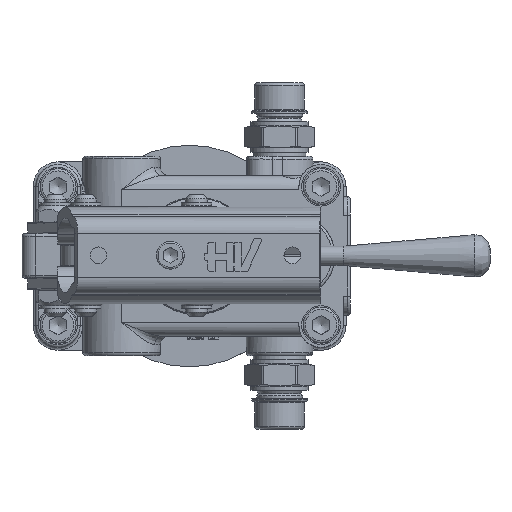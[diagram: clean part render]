
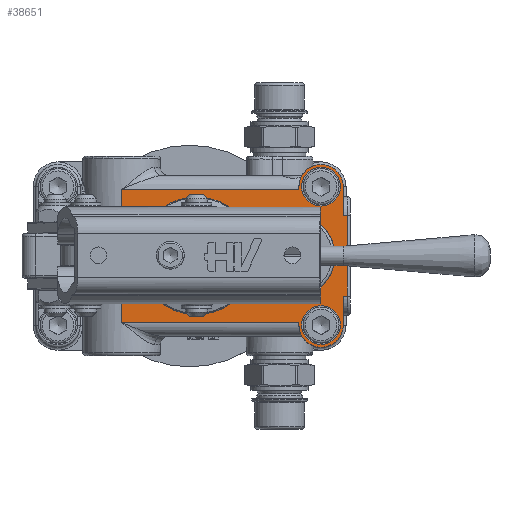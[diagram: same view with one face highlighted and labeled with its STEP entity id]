
A CAD part, top view. The second image highlights one B-rep face of the part: STEP entity #38651.
In plain terms, the highlighted planar face has unit normal (0, 0, 1).
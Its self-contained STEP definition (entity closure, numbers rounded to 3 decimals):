
#18081=CARTESIAN_POINT('',(77.978,33.055,43.0));
#18082=VERTEX_POINT('',#18081);
#18083=CARTESIAN_POINT('',(59.,34.,43.0));
#18084=DIRECTION('',(0.,0.,-1.0));
#18085=DIRECTION('',(-0.999,0.05,0.));
#18086=AXIS2_PLACEMENT_3D('',#18083,#18084,#18085);
#18087=CIRCLE('',#18086,19.002);
#18088=EDGE_CURVE('',#18082,#18082,#18087,.T.);
#36994=CARTESIAN_POINT('',(96.,58.,43.));
#36995=VERTEX_POINT('',#36994);
#37003=CARTESIAN_POINT('',(96.,59.,43.));
#37004=VERTEX_POINT('',#37003);
#37005=CARTESIAN_POINT('',(96.,58.,43.));
#37006=DIRECTION('',(0.0,1.0,0.0));
#37007=VECTOR('',#37006,1.);
#37008=LINE('',#37005,#37007);
#37009=EDGE_CURVE('',#36995,#37004,#37008,.T.);
#37025=CARTESIAN_POINT('',(96.0,10.0,43.));
#37026=VERTEX_POINT('',#37025);
#37036=CARTESIAN_POINT('',(96.0,9.,43.));
#37037=VERTEX_POINT('',#37036);
#37044=CARTESIAN_POINT('',(96.,9.,43.));
#37045=DIRECTION('',(0.0,1.0,0.0));
#37046=VECTOR('',#37045,1.);
#37047=LINE('',#37044,#37046);
#37048=EDGE_CURVE('',#37037,#37026,#37047,.T.);
#37207=CARTESIAN_POINT('',(32.,44.122,43.));
#37208=VERTEX_POINT('',#37207);
#37257=CARTESIAN_POINT('',(33.732,41.0,43.));
#37258=VERTEX_POINT('',#37257);
#37266=CARTESIAN_POINT('',(33.732,41.0,43.));
#37267=CARTESIAN_POINT('',(33.732,41.528,43.));
#37268=CARTESIAN_POINT('',(33.438,42.767,43.));
#37269=CARTESIAN_POINT('',(32.582,43.719,43.));
#37270=CARTESIAN_POINT('',(32.,44.122,43.));
#37271=B_SPLINE_CURVE_WITH_KNOTS('',3,(#37266,#37267,#37268,#37269,#37270),.UNSPECIFIED.,.F.,.U.,(4,1,4),(2.696,2.855,3.066),.UNSPECIFIED.);
#37272=EDGE_CURVE('',#37258,#37208,#37271,.T.);
#37284=CARTESIAN_POINT('',(33.732,27.,43.));
#37285=VERTEX_POINT('',#37284);
#37293=CARTESIAN_POINT('',(33.732,27.,43.));
#37294=DIRECTION('',(0.0,1.0,0.0));
#37295=VECTOR('',#37294,14.);
#37296=LINE('',#37293,#37295);
#37297=EDGE_CURVE('',#37285,#37258,#37296,.T.);
#37330=CARTESIAN_POINT('',(32.,23.878,43.));
#37331=VERTEX_POINT('',#37330);
#37339=CARTESIAN_POINT('',(32.,23.878,43.));
#37340=CARTESIAN_POINT('',(32.433,24.178,43.));
#37341=CARTESIAN_POINT('',(33.336,25.067,43.));
#37342=CARTESIAN_POINT('',(33.732,26.29,43.0));
#37343=CARTESIAN_POINT('',(33.732,27.,43.));
#37344=B_SPLINE_CURVE_WITH_KNOTS('',3,(#37339,#37340,#37341,#37342,#37343),.UNSPECIFIED.,.F.,.U.,(4,1,4),(2.696,2.854,3.065),.UNSPECIFIED.);
#37345=EDGE_CURVE('',#37331,#37285,#37344,.T.);
#38049=CARTESIAN_POINT('',(112.0,59.,43.));
#38050=VERTEX_POINT('',#38049);
#38057=CARTESIAN_POINT('',(112.,48.5,43.));
#38058=VERTEX_POINT('',#38057);
#38059=CARTESIAN_POINT('',(112.0,59.,43.));
#38060=DIRECTION('',(0.0,-1.0,0.0));
#38061=VECTOR('',#38060,10.5);
#38062=LINE('',#38059,#38061);
#38063=EDGE_CURVE('',#38050,#38058,#38062,.T.);
#38178=CARTESIAN_POINT('',(112.0,19.5,43.));
#38179=VERTEX_POINT('',#38178);
#38187=CARTESIAN_POINT('',(112.,9.,43.));
#38188=VERTEX_POINT('',#38187);
#38189=CARTESIAN_POINT('',(112.,19.5,43.));
#38190=DIRECTION('',(0.0,-1.0,0.0));
#38191=VECTOR('',#38190,10.5);
#38192=LINE('',#38189,#38191);
#38193=EDGE_CURVE('',#38179,#38188,#38192,.T.);
#38516=CARTESIAN_POINT('',(113.5,48.5,43.));
#38517=VERTEX_POINT('',#38516);
#38527=CARTESIAN_POINT('',(112.,48.5,43.));
#38528=DIRECTION('',(1.0,0.0,0.0));
#38529=VECTOR('',#38528,1.5);
#38530=LINE('',#38527,#38529);
#38531=EDGE_CURVE('',#38058,#38517,#38530,.T.);
#38536=CARTESIAN_POINT('',(104.,34.,43.));
#38537=DIRECTION('',(0.0,0.0,1.0));
#38538=DIRECTION('',(1.0,0.0,0.0));
#38539=AXIS2_PLACEMENT_3D('',#38536,#38537,#38538);
#38540=PLANE('',#38539);
#38541=CARTESIAN_POINT('',(113.5,19.5,43.));
#38542=VERTEX_POINT('',#38541);
#38543=CARTESIAN_POINT('',(113.5,48.5,43.));
#38544=DIRECTION('',(0.0,-1.0,0.0));
#38545=VECTOR('',#38544,29.);
#38546=LINE('',#38543,#38545);
#38547=EDGE_CURVE('',#38517,#38542,#38546,.T.);
#38548=ORIENTED_EDGE('',*,*,#38547,.F.);
#38549=ORIENTED_EDGE('',*,*,#38531,.F.);
#38550=ORIENTED_EDGE('',*,*,#38063,.F.);
#38551=CARTESIAN_POINT('',(104.,59.,43.));
#38552=DIRECTION('',(0.0,0.0,-1.0));
#38553=DIRECTION('',(1.0,0.0,0.0));
#38554=AXIS2_PLACEMENT_3D('',#38551,#38552,#38553);
#38555=CIRCLE('',#38554,8.0);
#38556=EDGE_CURVE('',#37004,#38050,#38555,.T.);
#38557=ORIENTED_EDGE('',*,*,#38556,.F.);
#38558=ORIENTED_EDGE('',*,*,#37009,.F.);
#38559=CARTESIAN_POINT('',(32.,58.,43.));
#38560=VERTEX_POINT('',#38559);
#38561=CARTESIAN_POINT('',(96.,58.,43.));
#38562=DIRECTION('',(-1.0,0.0,0.0));
#38563=VECTOR('',#38562,64.);
#38564=LINE('',#38561,#38563);
#38565=EDGE_CURVE('',#36995,#38560,#38564,.T.);
#38566=ORIENTED_EDGE('',*,*,#38565,.T.);
#38567=CARTESIAN_POINT('',(32.0,44.122,43.0));
#38568=DIRECTION('',(0.0,1.0,0.0));
#38569=VECTOR('',#38568,13.878);
#38570=LINE('',#38567,#38569);
#38571=EDGE_CURVE('',#37208,#38560,#38570,.T.);
#38572=ORIENTED_EDGE('',*,*,#38571,.F.);
#38573=ORIENTED_EDGE('',*,*,#37272,.F.);
#38574=ORIENTED_EDGE('',*,*,#37297,.F.);
#38575=ORIENTED_EDGE('',*,*,#37345,.F.);
#38576=CARTESIAN_POINT('',(32.,10.0,43.));
#38577=VERTEX_POINT('',#38576);
#38578=CARTESIAN_POINT('',(32.0,10.,43.0));
#38579=DIRECTION('',(0.0,1.0,0.0));
#38580=VECTOR('',#38579,13.878);
#38581=LINE('',#38578,#38580);
#38582=EDGE_CURVE('',#38577,#37331,#38581,.T.);
#38583=ORIENTED_EDGE('',*,*,#38582,.F.);
#38584=CARTESIAN_POINT('',(96.0,10.0,43.));
#38585=DIRECTION('',(-1.0,0.0,0.0));
#38586=VECTOR('',#38585,64.);
#38587=LINE('',#38584,#38586);
#38588=EDGE_CURVE('',#37026,#38577,#38587,.T.);
#38589=ORIENTED_EDGE('',*,*,#38588,.F.);
#38590=ORIENTED_EDGE('',*,*,#37048,.F.);
#38591=CARTESIAN_POINT('',(104.0,9.,43.));
#38592=DIRECTION('',(0.0,0.0,-1.0));
#38593=DIRECTION('',(-1.0,0.0,0.0));
#38594=AXIS2_PLACEMENT_3D('',#38591,#38592,#38593);
#38595=CIRCLE('',#38594,8.0);
#38596=EDGE_CURVE('',#38188,#37037,#38595,.T.);
#38597=ORIENTED_EDGE('',*,*,#38596,.F.);
#38598=ORIENTED_EDGE('',*,*,#38193,.F.);
#38599=CARTESIAN_POINT('',(112.0,19.5,43.));
#38600=DIRECTION('',(1.0,0.0,0.0));
#38601=VECTOR('',#38600,1.5);
#38602=LINE('',#38599,#38601);
#38603=EDGE_CURVE('',#38179,#38542,#38602,.T.);
#38604=ORIENTED_EDGE('',*,*,#38603,.T.);
#38605=EDGE_LOOP('',(#38548,#38549,#38550,#38557,#38558,#38566,#38572,#38573,#38574,#38575,#38583,#38589,#38590,#38597,#38598,#38604));
#38606=FACE_OUTER_BOUND('',#38605,.T.);
#38607=ORIENTED_EDGE('',*,*,#18088,.T.);
#38608=EDGE_LOOP('',(#38607));
#38609=FACE_BOUND('',#38608,.T.);
#38610=CARTESIAN_POINT('',(111.,59.,43.));
#38611=VERTEX_POINT('',#38610);
#38612=CARTESIAN_POINT('',(104.,59.,43.));
#38613=DIRECTION('',(0.0,0.0,-1.0));
#38614=DIRECTION('',(1.0,0.0,0.0));
#38615=AXIS2_PLACEMENT_3D('',#38612,#38613,#38614);
#38616=CIRCLE('',#38615,7.);
#38617=EDGE_CURVE('',#38611,#38611,#38616,.T.);
#38618=ORIENTED_EDGE('',*,*,#38617,.T.);
#38619=EDGE_LOOP('',(#38618));
#38620=FACE_BOUND('',#38619,.T.);
#38621=CARTESIAN_POINT('',(111.0,9.,43.));
#38622=VERTEX_POINT('',#38621);
#38623=CARTESIAN_POINT('',(104.0,9.,43.));
#38624=DIRECTION('',(0.0,0.0,-1.0));
#38625=DIRECTION('',(1.0,0.0,0.0));
#38626=AXIS2_PLACEMENT_3D('',#38623,#38624,#38625);
#38627=CIRCLE('',#38626,7.);
#38628=EDGE_CURVE('',#38622,#38622,#38627,.T.);
#38629=ORIENTED_EDGE('',*,*,#38628,.T.);
#38630=EDGE_LOOP('',(#38629));
#38631=FACE_BOUND('',#38630,.T.);
#38632=CARTESIAN_POINT('',(83.0,44.198,43.));
#38633=VERTEX_POINT('',#38632);
#38634=CARTESIAN_POINT('',(83.0,23.802,43.));
#38635=VERTEX_POINT('',#38634);
#38636=CARTESIAN_POINT('',(94.,34.0,43.));
#38637=DIRECTION('',(0.0,0.0,-1.0));
#38638=DIRECTION('',(-1.0,0.0,0.0));
#38639=AXIS2_PLACEMENT_3D('',#38636,#38637,#38638);
#38640=CIRCLE('',#38639,15.0);
#38641=EDGE_CURVE('',#38633,#38635,#38640,.T.);
#38642=ORIENTED_EDGE('',*,*,#38641,.T.);
#38643=CARTESIAN_POINT('',(83.0,23.802,43.));
#38644=DIRECTION('',(0.0,1.0,0.0));
#38645=VECTOR('',#38644,20.396);
#38646=LINE('',#38643,#38645);
#38647=EDGE_CURVE('',#38635,#38633,#38646,.T.);
#38648=ORIENTED_EDGE('',*,*,#38647,.T.);
#38649=EDGE_LOOP('',(#38642,#38648));
#38650=FACE_BOUND('',#38649,.T.);
#38651=ADVANCED_FACE('',(#38606,#38609,#38620,#38631,#38650),#38540,.T.);
